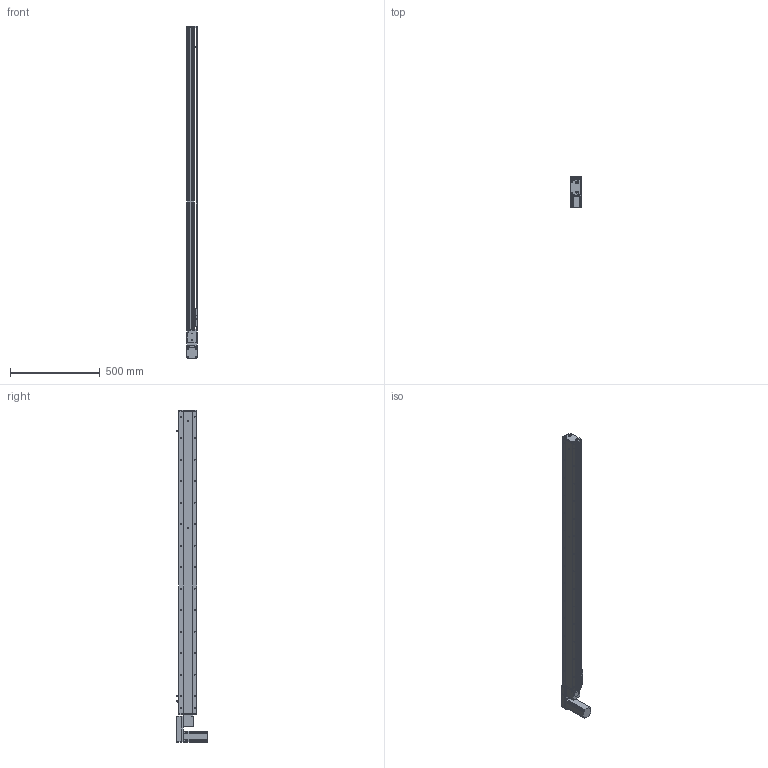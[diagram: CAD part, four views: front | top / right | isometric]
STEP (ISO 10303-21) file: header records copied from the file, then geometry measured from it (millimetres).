
FILE_DESCRIPTION (( 'STEP AP214' ), '1' );
FILE_NAME ('KSD100B-S1500-MLB-CM.STEP', '2019-08-31T02:25:17', ( '微软用户' ), ( '微软中国' ), 'SwSTEP 2.0', 'SolidWorks 2014', '' );
FILE_SCHEMA (( 'AUTOMOTIVE_DESIGN' ));
Length unit declared in the file: millimetre
Products named in the file (12): 悵誘欶奻狟殏; 100宽马达安装板连板上下折丝杆同步带; 台达ECMA－C20604AS伺服电机; U倰嫖萇EEㄜSX672; 覜茼え100遵圉猾敕; 100宽防尘板1500行程-同步带; 100宽马达安装板同步带左; 100宽同步带安装板半封闭; 100宽马达安装板同步带; 100遵傷啣肮祭湍; 100宽底板半封闭同步带1500行程; KSD100B-S1500-MLB-CM
Assembly tree (13 placements, depth 2):
  KSD100B-S1500-MLB-CM
    100宽底板半封闭同步带1500行程
    100遵傷啣肮祭湍
    100宽马达安装板同步带
    100宽同步带安装板半封闭
    100宽马达安装板同步带左
    100宽防尘板1500行程-同步带
    覜茼え100遵圉猾敕
    U倰嫖萇EEㄜSX672  x3
    台达ECMA－C20604AS伺服电机
    100宽马达安装板连板上下折丝杆同步带
    悵誘欶奻狟殏
Bounding box: 61 x 174.7 x 1853 mm (x, y, z)
Volume: 3752277.8 mm3; surface area: 1274894.2 mm2
Topology: 14 solids, 14 shells, 1623 faces, 4602 edges, 2907 vertices
Faces by surface type: cylinder 841, plane 611, cone 171
Entity records: 59327 total; most frequent: CARTESIAN_POINT 12562, DIRECTION 8018, ORIENTED_EDGE 7768, EDGE_CURVE 3884, AXIS2_PLACEMENT_3D 2949, VERTEX_POINT 2531, VECTOR 2120, LINE 2120
